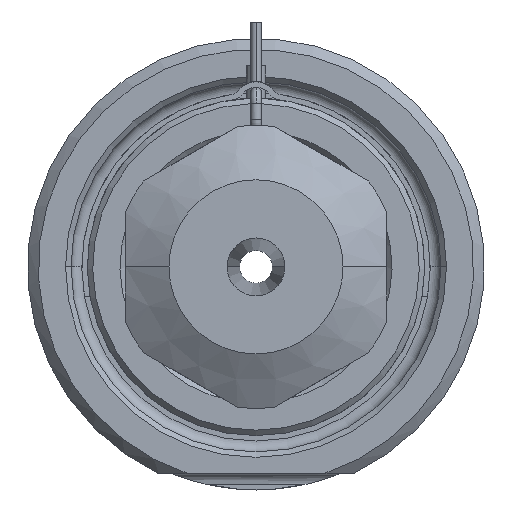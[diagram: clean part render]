
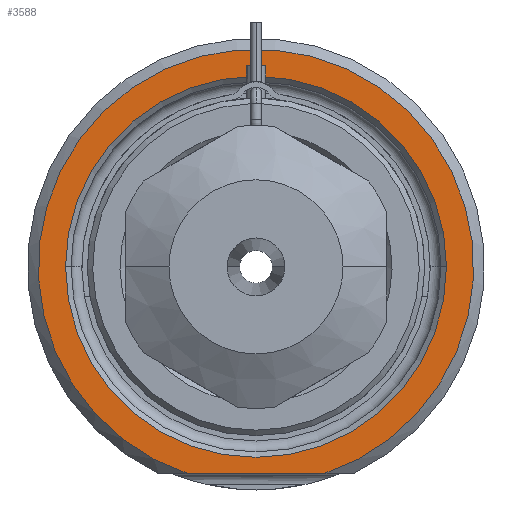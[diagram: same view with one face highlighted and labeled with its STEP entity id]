
A CAD part, front view. The second image highlights one B-rep face of the part: STEP entity #3588.
In plain terms, the highlighted planar face has unit normal (0, -1, 0).
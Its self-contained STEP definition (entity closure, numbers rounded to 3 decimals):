
#679=DIRECTION('',(1.,0.,0.));
#680=VECTOR('',#679,12.49);
#681=CARTESIAN_POINT('',(-6.245,0.,-19.));
#682=LINE('',#681,#680);
#683=CARTESIAN_POINT('',(0.,0.,0.));
#684=DIRECTION('',(0.,1.,0.));
#685=DIRECTION('',(-1.,0.,0.));
#686=AXIS2_PLACEMENT_3D('',#683,#684,#685);
#688=CARTESIAN_POINT('',(0.,0.,0.));
#689=DIRECTION('',(0.,1.,0.));
#690=DIRECTION('',(1.,0.,0.));
#691=AXIS2_PLACEMENT_3D('',#688,#689,#690);
#797=CARTESIAN_POINT('',(0.,0.,0.));
#798=DIRECTION('',(0.,-1.,0.));
#799=DIRECTION('',(0.312,0.,-0.95));
#800=AXIS2_PLACEMENT_3D('',#797,#798,#799);
#2411=CARTESIAN_POINT('',(-17.5,0.,0.));
#2412=CARTESIAN_POINT('',(17.5,0.,0.));
#2413=VERTEX_POINT('',#2411);
#2414=VERTEX_POINT('',#2412);
#2455=CARTESIAN_POINT('',(-6.245,0.,-19.));
#2456=CARTESIAN_POINT('',(6.245,0.,-19.));
#2457=VERTEX_POINT('',#2455);
#2458=VERTEX_POINT('',#2456);
#3572=CARTESIAN_POINT('',(0.,0.,0.));
#3573=DIRECTION('',(0.,-1.,0.));
#3574=DIRECTION('',(1.,0.,0.));
#3575=AXIS2_PLACEMENT_3D('',#3572,#3573,#3574);
#3576=PLANE('',#3575);
#3578=ORIENTED_EDGE('',*,*,#3577,.F.);
#3580=ORIENTED_EDGE('',*,*,#3579,.F.);
#3581=EDGE_LOOP('',(#3578,#3580));
#3582=FACE_OUTER_BOUND('',#3581,.F.);
#3583=ORIENTED_EDGE('',*,*,#3562,.F.);
#3585=ORIENTED_EDGE('',*,*,#3584,.F.);
#3586=EDGE_LOOP('',(#3583,#3585));
#3587=FACE_BOUND('',#3586,.F.);
#3588=ADVANCED_FACE('',(#3582,#3587),#3576,.T.);
#687=CIRCLE('',#686,17.5);
#692=CIRCLE('',#691,17.5);
#801=CIRCLE('',#800,20.);
#3562=EDGE_CURVE('',#2413,#2414,#687,.T.);
#3577=EDGE_CURVE('',#2457,#2458,#682,.T.);
#3579=EDGE_CURVE('',#2458,#2457,#801,.T.);
#3584=EDGE_CURVE('',#2414,#2413,#692,.T.);
